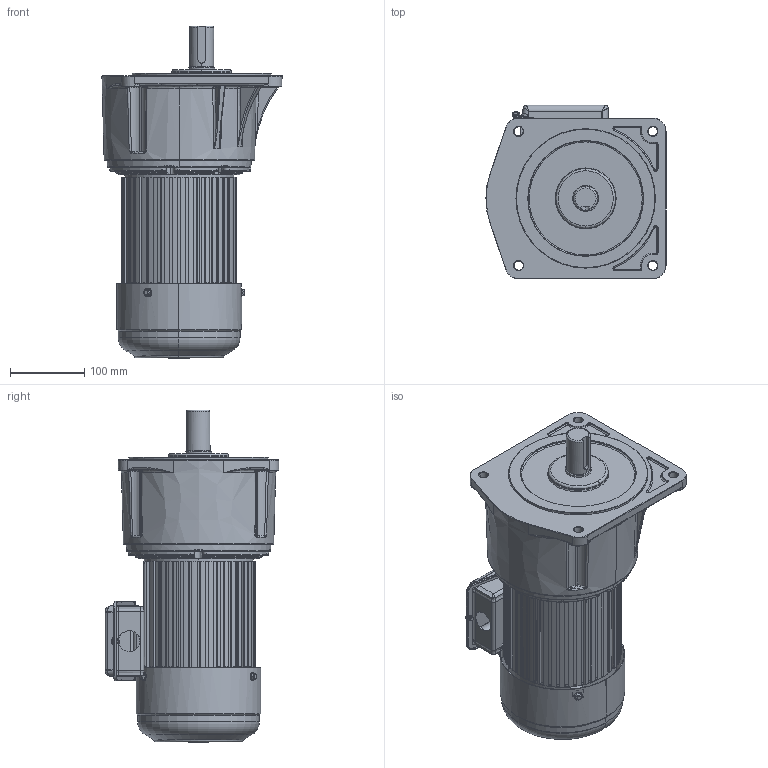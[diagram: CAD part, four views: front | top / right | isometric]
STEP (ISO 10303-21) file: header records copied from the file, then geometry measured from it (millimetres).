
FILE_DESCRIPTION (( 'STEP AP203' ), '1' );
FILE_NAME ('单相750W4#立式.STEP', '2015-10-31T07:42:41', ( '微软中国' ), ( '微软用户' ), 'SwSTEP 2.0', 'SolidWorks 2009', '' );
FILE_SCHEMA (( 'CONFIG_CONTROL_DESIGN' ));
Products named in the file (11): 棠憤迖殤400W; 等眈 瑞欶400W; 750W儂褲; 等眈750W4#蕾宒; 4#蕾宒眊极; 等眈750W; 鞠褒蹟邡_GB_FASTENER_BOLT_HFBB M5X10-N; 等眈諉盄碟窒璃; 等眈諉盄碟裔; 等眈諉盄碟釱; Cross recessed pan head screws GB_GB_CROSS_SCREWS_TYPE1 M5X6-6  H type-N
Assembly tree (12 placements, depth 4):
  等眈750W4#蕾宒
    4#蕾宒眊极
    等眈750W
      等眈 瑞欶400W
      等眈諉盄碟窒璃
        Cross recessed pan head screws GB_GB_CROSS_SCREWS_TYPE1 M5X6-6  H type-N
        等眈諉盄碟釱
        等眈諉盄碟裔
      鞠褒蹟邡_GB_FASTENER_BOLT_HFBB M5X10-N  x3
      棠憤迖殤400W
      750W儂褲
Bounding box: 241.97 x 233.57 x 446 mm (x, y, z)
Volume: 5315192.4 mm3; surface area: 742296.4 mm2
Topology: 10 solids, 12 shells, 2283 faces, 6030 edges, 3700 vertices
Faces by surface type: bspline 809, plane 806, cylinder 537, torus 99, cone 30, sphere 2
Entity records: 109179 total; most frequent: CARTESIAN_POINT 58534, ORIENTED_EDGE 11600, DIRECTION 8618, EDGE_CURVE 5800, VERTEX_POINT 3640, AXIS2_PLACEMENT_3D 3086, EDGE_LOOP 2524, VECTOR 2446
